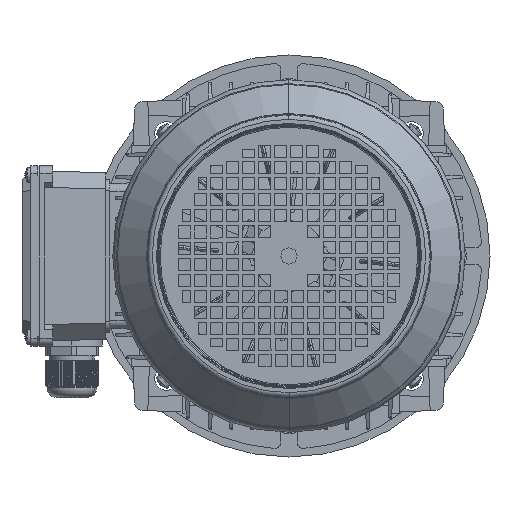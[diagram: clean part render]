
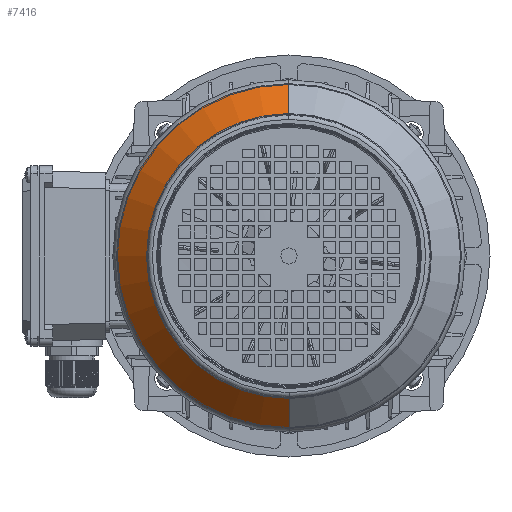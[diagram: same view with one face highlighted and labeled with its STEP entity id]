
A CAD part, left-side view. The second image highlights one B-rep face of the part: STEP entity #7416.
In plain terms, the highlighted conical face has half-angle 45 degrees and reference radius 88.586 mm.
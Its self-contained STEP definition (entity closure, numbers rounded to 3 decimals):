
#3501 = EDGE_LOOP ( 'NONE', ( #38926, #107783, #18493, #48740 ) ) ;
#5780 = AXIS2_PLACEMENT_3D ( 'NONE', #92855, #80833, #68826 ) ;
#7416 = ADVANCED_FACE ( 'NONE', ( #31858 ), #59849, .T. ) ;
#7824 = CIRCLE ( 'NONE', #103421, 107.207 ) ;
#9157 = EDGE_CURVE ( 'NONE', #54975, #64803, #24824, .T. ) ;
#11293 = CARTESIAN_POINT ( 'NONE',  ( 171.414, 0., 88.586 ) ) ;
#15731 = VECTOR ( 'NONE', #49475, 1000. ) ;
#18022 = EDGE_CURVE ( 'NONE', #64803, #49533, #94796, .T. ) ;
#18493 = ORIENTED_EDGE ( 'NONE', *, *, #18022, .T. ) ;
#19084 = VECTOR ( 'NONE', #34685, 1000. ) ;
#20346 = EDGE_CURVE ( 'NONE', #115902, #49533, #7824, .T. ) ;
#22338 = DIRECTION ( 'NONE',  ( 0., 0., 1. ) ) ;
#22813 = DIRECTION ( 'NONE',  ( 0., 0., 1. ) ) ;
#24824 = CIRCLE ( 'NONE', #5780, 88.586 ) ;
#28136 = CARTESIAN_POINT ( 'NONE',  ( 171.414, 0., -88.586 ) ) ;
#29886 = CARTESIAN_POINT ( 'NONE',  ( 152.793, 0., -107.207 ) ) ;
#31858 = FACE_OUTER_BOUND ( 'NONE', #3501, .T. ) ;
#34391 = DIRECTION ( 'NONE',  ( -1., 0., 0. ) ) ;
#34685 = DIRECTION ( 'NONE',  ( -0.707, 0., 0.707 ) ) ;
#34855 = DIRECTION ( 'NONE',  ( -1., 0., 0. ) ) ;
#38926 = ORIENTED_EDGE ( 'NONE', *, *, #104410, .F. ) ;
#46404 = CARTESIAN_POINT ( 'NONE',  ( 152.793, 0., 0. ) ) ;
#46686 = CARTESIAN_POINT ( 'NONE',  ( 171.414, 0., 88.586 ) ) ;
#47005 = AXIS2_PLACEMENT_3D ( 'NONE', #94976, #34855, #22813 ) ;
#48740 = ORIENTED_EDGE ( 'NONE', *, *, #20346, .F. ) ;
#49475 = DIRECTION ( 'NONE',  ( -0.707, 0., -0.707 ) ) ;
#49533 = VERTEX_POINT ( 'NONE', #95116 ) ;
#54975 = VERTEX_POINT ( 'NONE', #28136 ) ;
#59849 = CONICAL_SURFACE ( 'NONE', #47005, 88.586, 0.785 ) ;
#61521 = CARTESIAN_POINT ( 'NONE',  ( 171.414, 0., -88.586 ) ) ;
#64803 = VERTEX_POINT ( 'NONE', #11293 ) ;
#68826 = DIRECTION ( 'NONE',  ( 0., 0., 1. ) ) ;
#73530 = LINE ( 'NONE', #61521, #15731 ) ;
#80833 = DIRECTION ( 'NONE',  ( -1., 0., 0. ) ) ;
#92855 = CARTESIAN_POINT ( 'NONE',  ( 171.414, 0., 0. ) ) ;
#94796 = LINE ( 'NONE', #46686, #19084 ) ;
#94976 = CARTESIAN_POINT ( 'NONE',  ( 171.414, 0., 0. ) ) ;
#95116 = CARTESIAN_POINT ( 'NONE',  ( 152.793, 0., 107.207 ) ) ;
#103421 = AXIS2_PLACEMENT_3D ( 'NONE', #46404, #34391, #22338 ) ;
#104410 = EDGE_CURVE ( 'NONE', #54975, #115902, #73530, .T. ) ;
#107783 = ORIENTED_EDGE ( 'NONE', *, *, #9157, .T. ) ;
#115902 = VERTEX_POINT ( 'NONE', #29886 ) ;
